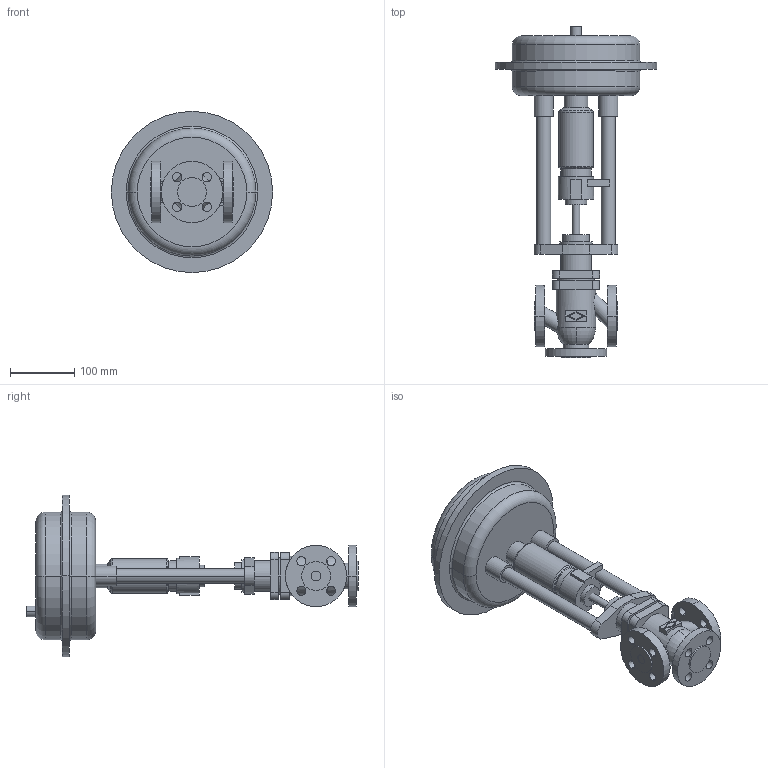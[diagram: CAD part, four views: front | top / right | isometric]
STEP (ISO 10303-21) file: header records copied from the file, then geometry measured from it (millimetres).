
FILE_DESCRIPTION(('OneSpaceDesigner STEP Export'),'2;1');
FILE_NAME('c000000401.stp','2006-09-13T12:31:56',(''),(''),'OneSpace Designer STEP processor for AP214 (Solid Model)','OneSpace Designer 13.20A 18-Aug-2005 (C) CoCreate Software GmbH','');
FILE_SCHEMA(('AUTOMOTIVE_DESIGN { 1 0 10303 214 1 1 1 1 }'));
Length unit declared in the file: millimetre
Products named in the file (2): 1; 2
Bounding box: 250 x 515 x 250 mm (x, y, z)
Volume: 4387583.8 mm3; surface area: 333015.4 mm2
Topology: 2 solids, 2 shells, 205 faces, 499 edges, 328 vertices
Faces by surface type: cylinder 100, plane 83, torus 18, cone 4
Entity records: 5509 total; most frequent: CARTESIAN_POINT 1037, ORIENTED_EDGE 998, DIRECTION 818, EDGE_CURVE 499, VERTEX_POINT 328, AXIS2_PLACEMENT_3D 294, EDGE_LOOP 259, VECTOR 230
